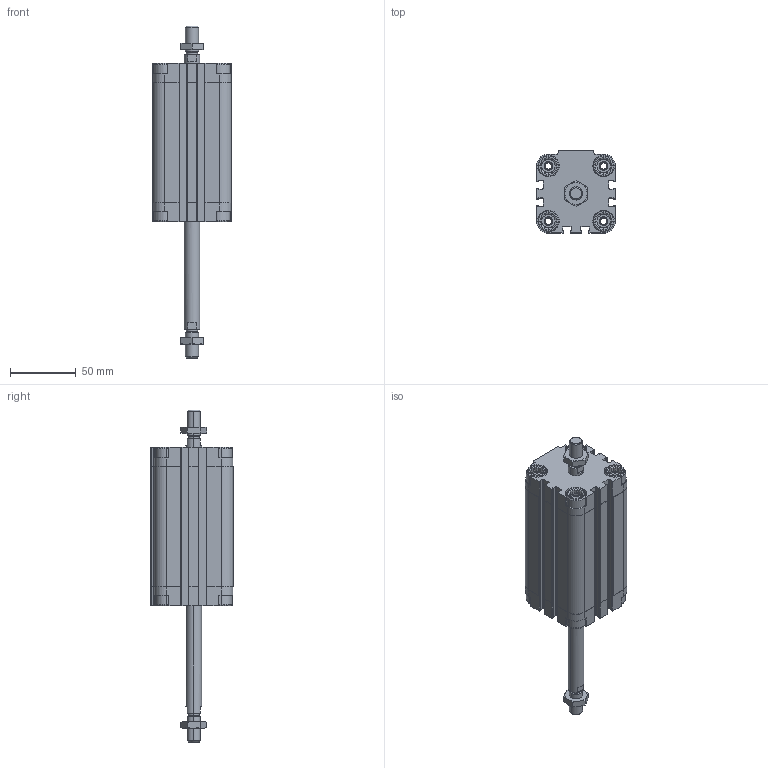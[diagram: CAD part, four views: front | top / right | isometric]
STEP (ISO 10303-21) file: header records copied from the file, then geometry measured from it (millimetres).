
FILE_DESCRIPTION (( 'STEP AP203' ), '1' );
FILE_NAME ('CDVU40-75M-P.STEP', '2020-07-21T15:17:03', ( '' ), ( '' ), 'SwSTEP 2.0', 'SolidWorks 2019', '' );
FILE_SCHEMA (( 'CONFIG_CONTROL_DESIGN' ));
Length unit declared in the file: millimetre
Products named in the file (1): CDVU40-75M-P
Bounding box: 60 x 62.5 x 252.5 mm (x, y, z)
Volume: 312083 mm3; surface area: 86417.7 mm2
Topology: 4 solids, 4 shells, 758 faces, 2004 edges, 1290 vertices
Faces by surface type: plane 438, cylinder 240, cone 80
Entity records: 24115 total; most frequent: CARTESIAN_POINT 5193, ORIENTED_EDGE 4000, DIRECTION 3862, EDGE_CURVE 2000, AXIS2_PLACEMENT_3D 1319, VERTEX_POINT 1290, VECTOR 1224, LINE 1224
